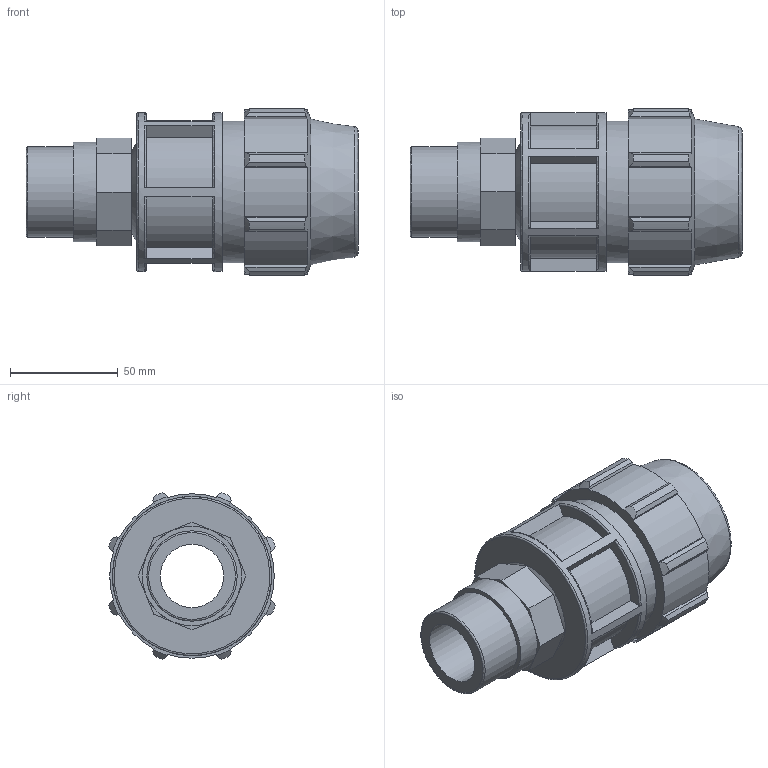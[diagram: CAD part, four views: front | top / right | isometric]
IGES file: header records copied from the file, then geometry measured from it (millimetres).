
Global section: file name: 077200040013_187200040013_0772060400130A.ipt; native system: Autodesk Inventor 2015; preprocessor: unknown; author: KIM; date: 20170606.174248; units: millimetre
Bounding box: 154 x 77.16 x 77.16 mm (x, y, z)
Volume: 299972.5 mm3; surface area: 62099.9 mm2
Topology: 1 solids, 1 shells, 137 faces, 367 edges, 244 vertices
Faces by surface type: plane 81, cylinder 26, revolution 19, cone 11
Full cylindrical faces by diameter (mm): 41.91 x1, 46.101 x1, 65.6 x1, 73.8 x1
